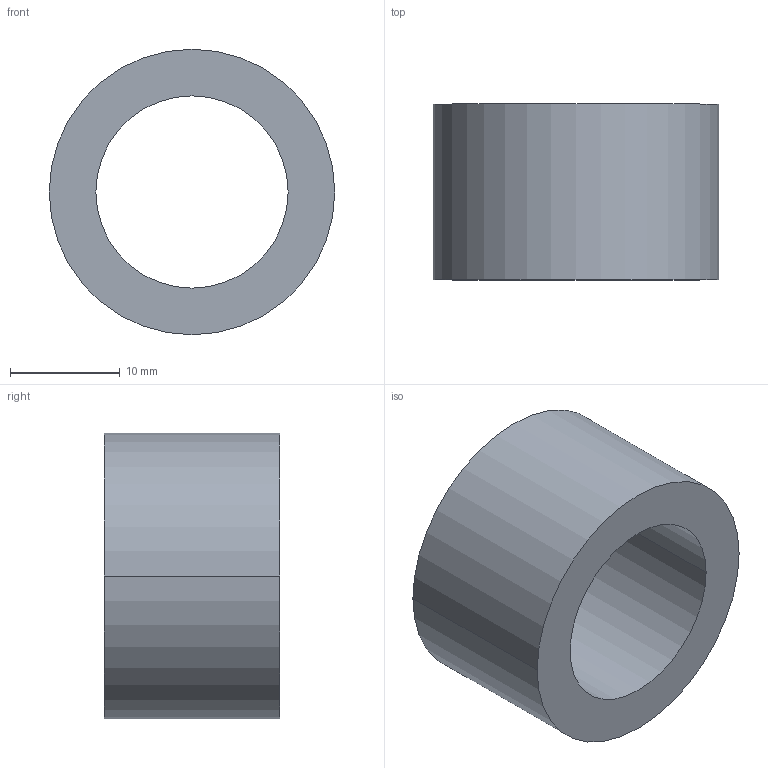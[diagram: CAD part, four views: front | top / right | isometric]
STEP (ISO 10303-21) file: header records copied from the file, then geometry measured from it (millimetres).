
FILE_DESCRIPTION (( 'STEP AP203' ), '1' );
FILE_NAME ('30800.WPP26F17.5.step', '2019-01-23T22:46:00', ( '' ), ( '' ), 'SwSTEP 2.0', 'SolidWorks 2017', '' );
FILE_SCHEMA (( 'CONFIG_CONTROL_DESIGN' ));
Length unit declared in the file: millimetre
Products named in the file (1): 30800.WPP26F17.5
Bounding box: 26 x 16 x 26 mm (x, y, z)
Volume: 4596.8 mm3; surface area: 2721.9 mm2
Topology: 1 solids, 1 shells, 8 faces, 16 edges, 10 vertices
Faces by surface type: cylinder 4, torus 2, plane 2
Entity records: 297 total; most frequent: DIRECTION 46, CARTESIAN_POINT 35, ORIENTED_EDGE 32, AXIS2_PLACEMENT_3D 21, EDGE_CURVE 16, CIRCLE 12, VERTEX_POINT 10, EDGE_LOOP 10
